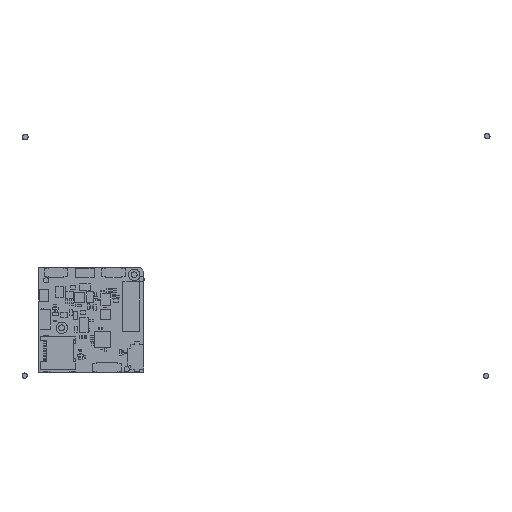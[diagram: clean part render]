
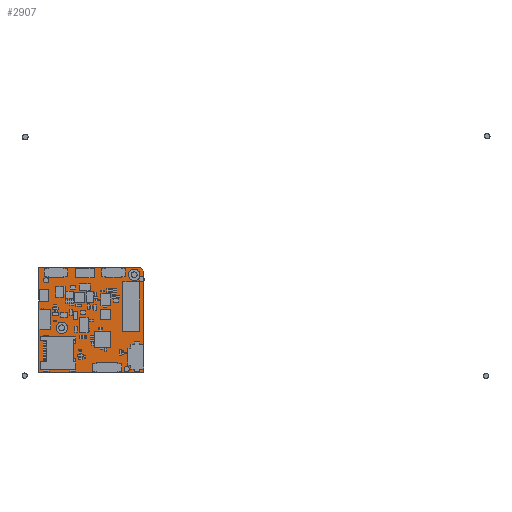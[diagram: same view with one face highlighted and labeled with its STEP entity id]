
A CAD part, top view. The second image highlights one B-rep face of the part: STEP entity #2907.
In plain terms, the highlighted planar face has unit normal (0, 0, 1).
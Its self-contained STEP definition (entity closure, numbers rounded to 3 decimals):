
#1870=FACE_OUTER_BOUND($,#2232,.F.);
#1882=FACE_OUTER_BOUND($,#2244,.T.);
#1886=FACE_OUTER_BOUND($,#2248,.T.);
#1890=FACE_OUTER_BOUND($,#2252,.T.);
#1894=FACE_OUTER_BOUND($,#2256,.T.);
#1898=FACE_OUTER_BOUND($,#2260,.T.);
#1902=FACE_OUTER_BOUND($,#2264,.T.);
#1906=FACE_OUTER_BOUND($,#2268,.T.);
#1912=FACE_OUTER_BOUND($,#2274,.T.);
#1918=FACE_OUTER_BOUND($,#2280,.T.);
#1924=FACE_OUTER_BOUND($,#2286,.T.);
#2232=EDGE_LOOP($,(#5387,#5388,#5389,#5390,#5391,#5392,#5393,#5394,#5395,
#5396));
#2244=EDGE_LOOP($,(#5447,#5448));
#2248=EDGE_LOOP($,(#5459,#5460));
#2252=EDGE_LOOP($,(#5471,#5472));
#2256=EDGE_LOOP($,(#5483,#5484));
#2260=EDGE_LOOP($,(#5495,#5496));
#2264=EDGE_LOOP($,(#5507,#5508));
#2268=EDGE_LOOP($,(#5519,#5520,#5521,#5522));
#2274=EDGE_LOOP($,(#5543,#5544,#5545,#5546));
#2280=EDGE_LOOP($,(#5567,#5568,#5569,#5570));
#2286=EDGE_LOOP($,(#5591,#5592,#5593,#5594));
#2594=PLANE($,#4808);
#2907=ADVANCED_FACE($,(#1870,#1882,#1886,#1890,#1894,#1898,#1902,#1906,
#1912,#1918,#1924),#2594,.T.);
#3249=VECTOR($,#8635,43.429);
#3250=VECTOR($,#8636,2.08);
#3251=VECTOR($,#8637,43.429);
#3252=VECTOR($,#8638,44.9);
#3253=VECTOR($,#8639,44.9);
#3288=VECTOR($,#8679,0.686);
#3289=VECTOR($,#8680,0.686);
#3297=VECTOR($,#8690,0.686);
#3298=VECTOR($,#8691,0.686);
#3306=VECTOR($,#8701,0.127);
#3307=VECTOR($,#8702,0.127);
#3315=VECTOR($,#8712,0.127);
#3316=VECTOR($,#8713,0.127);
#3997=LINE($,#9786,#3249);
#3998=LINE($,#9788,#3250);
#3999=LINE($,#9790,#3251);
#4000=LINE($,#9792,#3252);
#4001=LINE($,#9794,#3253);
#4036=LINE($,#9895,#3288);
#4037=LINE($,#9897,#3289);
#4045=LINE($,#9911,#3297);
#4046=LINE($,#9913,#3298);
#4054=LINE($,#9927,#3306);
#4055=LINE($,#9929,#3307);
#4063=LINE($,#9943,#3315);
#4064=LINE($,#9945,#3316);
#4745=CIRCLE($,#4803,0.05);
#4746=CIRCLE($,#4804,0.05);
#4747=CIRCLE($,#4805,0.05);
#4748=CIRCLE($,#4806,0.05);
#4749=CIRCLE($,#4807,0.05);
#4755=CIRCLE($,#4825,1.245);
#4756=CIRCLE($,#4826,1.245);
#4759=CIRCLE($,#4831,1.245);
#4760=CIRCLE($,#4832,1.245);
#4763=CIRCLE($,#4837,0.127);
#4764=CIRCLE($,#4838,0.127);
#4767=CIRCLE($,#4843,0.508);
#4768=CIRCLE($,#4844,0.508);
#4771=CIRCLE($,#4849,0.508);
#4772=CIRCLE($,#4850,0.508);
#4775=CIRCLE($,#4855,0.127);
#4776=CIRCLE($,#4856,0.127);
#4779=CIRCLE($,#4861,0.305);
#4780=CIRCLE($,#4862,0.305);
#4783=CIRCLE($,#4869,0.305);
#4784=CIRCLE($,#4870,0.305);
#4787=CIRCLE($,#4877,0.356);
#4788=CIRCLE($,#4878,0.356);
#4791=CIRCLE($,#4885,0.356);
#4792=CIRCLE($,#4886,0.356);
#4803=AXIS2_PLACEMENT_3D($,#9796,#8632,$);
#4804=AXIS2_PLACEMENT_3D($,#9797,#8632,$);
#4805=AXIS2_PLACEMENT_3D($,#9798,#8632,$);
#4806=AXIS2_PLACEMENT_3D($,#9799,#8632,$);
#4807=AXIS2_PLACEMENT_3D($,#9800,#8632,$);
#4808=AXIS2_PLACEMENT_3D($,#9786,#8632,$);
#4825=AXIS2_PLACEMENT_3D($,#9825,#8632,$);
#4826=AXIS2_PLACEMENT_3D($,#9826,#8632,$);
#4831=AXIS2_PLACEMENT_3D($,#9837,#8632,$);
#4832=AXIS2_PLACEMENT_3D($,#9838,#8632,$);
#4837=AXIS2_PLACEMENT_3D($,#9849,#8632,$);
#4838=AXIS2_PLACEMENT_3D($,#9850,#8632,$);
#4843=AXIS2_PLACEMENT_3D($,#9861,#8632,$);
#4844=AXIS2_PLACEMENT_3D($,#9862,#8632,$);
#4849=AXIS2_PLACEMENT_3D($,#9873,#8632,$);
#4850=AXIS2_PLACEMENT_3D($,#9874,#8632,$);
#4855=AXIS2_PLACEMENT_3D($,#9885,#8632,$);
#4856=AXIS2_PLACEMENT_3D($,#9886,#8632,$);
#4861=AXIS2_PLACEMENT_3D($,#9899,#8632,$);
#4862=AXIS2_PLACEMENT_3D($,#9900,#8632,$);
#4869=AXIS2_PLACEMENT_3D($,#9915,#8632,$);
#4870=AXIS2_PLACEMENT_3D($,#9916,#8632,$);
#4877=AXIS2_PLACEMENT_3D($,#9931,#8632,$);
#4878=AXIS2_PLACEMENT_3D($,#9932,#8632,$);
#4885=AXIS2_PLACEMENT_3D($,#9947,#8632,$);
#4886=AXIS2_PLACEMENT_3D($,#9948,#8632,$);
#5387=ORIENTED_EDGE($,*,*,#6887,.T.);
#5388=ORIENTED_EDGE($,*,*,#6888,.T.);
#5389=ORIENTED_EDGE($,*,*,#6889,.T.);
#5390=ORIENTED_EDGE($,*,*,#6890,.T.);
#5391=ORIENTED_EDGE($,*,*,#6891,.T.);
#5392=ORIENTED_EDGE($,*,*,#6892,.T.);
#5393=ORIENTED_EDGE($,*,*,#6893,.T.);
#5394=ORIENTED_EDGE($,*,*,#6894,.T.);
#5395=ORIENTED_EDGE($,*,*,#6895,.T.);
#5396=ORIENTED_EDGE($,*,*,#6896,.T.);
#5447=ORIENTED_EDGE($,*,*,#6918,.T.);
#5448=ORIENTED_EDGE($,*,*,#6919,.T.);
#5459=ORIENTED_EDGE($,*,*,#6925,.T.);
#5460=ORIENTED_EDGE($,*,*,#6926,.T.);
#5471=ORIENTED_EDGE($,*,*,#6932,.T.);
#5472=ORIENTED_EDGE($,*,*,#6933,.T.);
#5483=ORIENTED_EDGE($,*,*,#6939,.T.);
#5484=ORIENTED_EDGE($,*,*,#6940,.T.);
#5495=ORIENTED_EDGE($,*,*,#6946,.T.);
#5496=ORIENTED_EDGE($,*,*,#6947,.T.);
#5507=ORIENTED_EDGE($,*,*,#6953,.T.);
#5508=ORIENTED_EDGE($,*,*,#6954,.T.);
#5519=ORIENTED_EDGE($,*,*,#6960,.T.);
#5520=ORIENTED_EDGE($,*,*,#6961,.T.);
#5521=ORIENTED_EDGE($,*,*,#6962,.T.);
#5522=ORIENTED_EDGE($,*,*,#6963,.T.);
#5543=ORIENTED_EDGE($,*,*,#6973,.T.);
#5544=ORIENTED_EDGE($,*,*,#6974,.T.);
#5545=ORIENTED_EDGE($,*,*,#6975,.T.);
#5546=ORIENTED_EDGE($,*,*,#6976,.T.);
#5567=ORIENTED_EDGE($,*,*,#6986,.T.);
#5568=ORIENTED_EDGE($,*,*,#6987,.T.);
#5569=ORIENTED_EDGE($,*,*,#6988,.T.);
#5570=ORIENTED_EDGE($,*,*,#6989,.T.);
#5591=ORIENTED_EDGE($,*,*,#6999,.T.);
#5592=ORIENTED_EDGE($,*,*,#7000,.T.);
#5593=ORIENTED_EDGE($,*,*,#7001,.T.);
#5594=ORIENTED_EDGE($,*,*,#7002,.T.);
#6887=EDGE_CURVE($,#7693,#7694,#4745,.F.);
#6888=EDGE_CURVE($,#7694,#7695,#3997,.T.);
#6889=EDGE_CURVE($,#7695,#7696,#4746,.F.);
#6890=EDGE_CURVE($,#7696,#7697,#3998,.T.);
#6891=EDGE_CURVE($,#7697,#7698,#4747,.F.);
#6892=EDGE_CURVE($,#7698,#7699,#3999,.T.);
#6893=EDGE_CURVE($,#7699,#7700,#4748,.F.);
#6894=EDGE_CURVE($,#7700,#7701,#4000,.T.);
#6895=EDGE_CURVE($,#7701,#7702,#4749,.F.);
#6896=EDGE_CURVE($,#7702,#7693,#4001,.T.);
#6918=EDGE_CURVE($,#7715,#7716,#4755,.F.);
#6919=EDGE_CURVE($,#7716,#7715,#4756,.F.);
#6925=EDGE_CURVE($,#7721,#7722,#4759,.F.);
#6926=EDGE_CURVE($,#7722,#7721,#4760,.F.);
#6932=EDGE_CURVE($,#7727,#7728,#4763,.F.);
#6933=EDGE_CURVE($,#7728,#7727,#4764,.F.);
#6939=EDGE_CURVE($,#7733,#7734,#4767,.F.);
#6940=EDGE_CURVE($,#7734,#7733,#4768,.F.);
#6946=EDGE_CURVE($,#7739,#7740,#4771,.F.);
#6947=EDGE_CURVE($,#7740,#7739,#4772,.F.);
#6953=EDGE_CURVE($,#7745,#7746,#4775,.F.);
#6954=EDGE_CURVE($,#7746,#7745,#4776,.F.);
#6960=EDGE_CURVE($,#7751,#7752,#4779,.F.);
#6961=EDGE_CURVE($,#7752,#7753,#4036,.T.);
#6962=EDGE_CURVE($,#7753,#7754,#4780,.F.);
#6963=EDGE_CURVE($,#7754,#7751,#4037,.T.);
#6973=EDGE_CURVE($,#7761,#7762,#4783,.F.);
#6974=EDGE_CURVE($,#7762,#7763,#4045,.T.);
#6975=EDGE_CURVE($,#7763,#7764,#4784,.F.);
#6976=EDGE_CURVE($,#7764,#7761,#4046,.T.);
#6986=EDGE_CURVE($,#7771,#7772,#4787,.F.);
#6987=EDGE_CURVE($,#7772,#7773,#4054,.T.);
#6988=EDGE_CURVE($,#7773,#7774,#4788,.F.);
#6989=EDGE_CURVE($,#7774,#7771,#4055,.T.);
#6999=EDGE_CURVE($,#7781,#7782,#4791,.F.);
#7000=EDGE_CURVE($,#7782,#7783,#4063,.T.);
#7001=EDGE_CURVE($,#7783,#7784,#4792,.F.);
#7002=EDGE_CURVE($,#7784,#7781,#4064,.T.);
#7693=VERTEX_POINT($,#9785);
#7694=VERTEX_POINT($,#9786);
#7695=VERTEX_POINT($,#9787);
#7696=VERTEX_POINT($,#9788);
#7697=VERTEX_POINT($,#9789);
#7698=VERTEX_POINT($,#9790);
#7699=VERTEX_POINT($,#9791);
#7700=VERTEX_POINT($,#9792);
#7701=VERTEX_POINT($,#9793);
#7702=VERTEX_POINT($,#9794);
#7715=VERTEX_POINT($,#9822);
#7716=VERTEX_POINT($,#9823);
#7721=VERTEX_POINT($,#9834);
#7722=VERTEX_POINT($,#9835);
#7727=VERTEX_POINT($,#9846);
#7728=VERTEX_POINT($,#9847);
#7733=VERTEX_POINT($,#9858);
#7734=VERTEX_POINT($,#9859);
#7739=VERTEX_POINT($,#9870);
#7740=VERTEX_POINT($,#9871);
#7745=VERTEX_POINT($,#9882);
#7746=VERTEX_POINT($,#9883);
#7751=VERTEX_POINT($,#9894);
#7752=VERTEX_POINT($,#9895);
#7753=VERTEX_POINT($,#9896);
#7754=VERTEX_POINT($,#9897);
#7761=VERTEX_POINT($,#9910);
#7762=VERTEX_POINT($,#9911);
#7763=VERTEX_POINT($,#9912);
#7764=VERTEX_POINT($,#9913);
#7771=VERTEX_POINT($,#9926);
#7772=VERTEX_POINT($,#9927);
#7773=VERTEX_POINT($,#9928);
#7774=VERTEX_POINT($,#9929);
#7781=VERTEX_POINT($,#9942);
#7782=VERTEX_POINT($,#9943);
#7783=VERTEX_POINT($,#9944);
#7784=VERTEX_POINT($,#9945);
#8632=DIRECTION($,(0.,0.,1.));
#8635=DIRECTION($,(1.,0.,0.));
#8636=DIRECTION($,(0.707,-0.707,0.));
#8637=DIRECTION($,(0.,-1.,0.));
#8638=DIRECTION($,(-1.,0.,0.));
#8639=DIRECTION($,(0.,1.,0.));
#8679=DIRECTION($,(-1.,0.,0.));
#8680=DIRECTION($,(1.,0.,0.));
#8690=DIRECTION($,(-1.,0.,0.));
#8691=DIRECTION($,(1.,0.,0.));
#8701=DIRECTION($,(-1.,0.,0.));
#8702=DIRECTION($,(1.,0.,0.));
#8712=DIRECTION($,(-1.,0.,0.));
#8713=DIRECTION($,(1.,0.,0.));
#9785=CARTESIAN_POINT('',(12.,56.95,0.));
#9786=CARTESIAN_POINT('',(12.05,57.,0.));
#9787=CARTESIAN_POINT('',(55.479,57.,0.));
#9788=CARTESIAN_POINT('',(55.514,56.985,0.));
#9789=CARTESIAN_POINT('',(56.985,55.514,0.));
#9790=CARTESIAN_POINT('',(57.,55.479,0.));
#9791=CARTESIAN_POINT('',(57.,12.05,0.));
#9792=CARTESIAN_POINT('',(56.95,12.,0.));
#9793=CARTESIAN_POINT('',(12.05,12.,0.));
#9794=CARTESIAN_POINT('',(12.,12.05,0.));
#9796=CARTESIAN_POINT('',(12.05,56.95,0.));
#9797=CARTESIAN_POINT('',(55.479,56.95,0.));
#9798=CARTESIAN_POINT('',(56.95,55.479,0.));
#9799=CARTESIAN_POINT('',(56.95,12.05,0.));
#9800=CARTESIAN_POINT('',(12.05,12.05,0.));
#9822=CARTESIAN_POINT('',(54.081,53.954,0.));
#9823=CARTESIAN_POINT('',(51.591,53.954,0.));
#9825=CARTESIAN_POINT('',(52.836,53.954,0.));
#9826=CARTESIAN_POINT('',(52.836,53.954,0.));
#9834=CARTESIAN_POINT('',(23.014,31.194,0.));
#9835=CARTESIAN_POINT('',(20.525,31.194,0.));
#9837=CARTESIAN_POINT('',(21.77,31.194,0.));
#9838=CARTESIAN_POINT('',(21.77,31.194,0.));
#9846=CARTESIAN_POINT('',(40.767,43.307,0.));
#9847=CARTESIAN_POINT('',(40.513,43.307,0.));
#9849=CARTESIAN_POINT('',(40.64,43.307,0.));
#9850=CARTESIAN_POINT('',(40.64,43.307,0.));
#9858=CARTESIAN_POINT('',(49.241,30.24,0.));
#9859=CARTESIAN_POINT('',(48.225,30.24,0.));
#9861=CARTESIAN_POINT('',(48.733,30.24,0.));
#9862=CARTESIAN_POINT('',(48.733,30.24,0.));
#9870=CARTESIAN_POINT('',(49.241,50.357,0.));
#9871=CARTESIAN_POINT('',(48.225,50.357,0.));
#9873=CARTESIAN_POINT('',(48.733,50.357,0.));
#9874=CARTESIAN_POINT('',(48.733,50.357,0.));
#9882=CARTESIAN_POINT('',(25.248,45.356,0.));
#9883=CARTESIAN_POINT('',(24.994,45.356,0.));
#9885=CARTESIAN_POINT('',(25.121,45.356,0.));
#9886=CARTESIAN_POINT('',(25.121,45.356,0.));
#9894=CARTESIAN_POINT('',(13.805,39.281,0.));
#9895=CARTESIAN_POINT('',(13.805,38.672,0.));
#9896=CARTESIAN_POINT('',(13.119,38.672,0.));
#9897=CARTESIAN_POINT('',(13.119,39.281,0.));
#9899=CARTESIAN_POINT('',(13.805,38.976,0.));
#9900=CARTESIAN_POINT('',(13.119,38.976,0.));
#9910=CARTESIAN_POINT('',(13.805,30.925,0.));
#9911=CARTESIAN_POINT('',(13.805,30.315,0.));
#9912=CARTESIAN_POINT('',(13.119,30.315,0.));
#9913=CARTESIAN_POINT('',(13.119,30.925,0.));
#9915=CARTESIAN_POINT('',(13.805,30.62,0.));
#9916=CARTESIAN_POINT('',(13.119,30.62,0.));
#9926=CARTESIAN_POINT('',(16.529,37.389,0.));
#9927=CARTESIAN_POINT('',(16.529,36.678,0.));
#9928=CARTESIAN_POINT('',(16.402,36.678,0.));
#9929=CARTESIAN_POINT('',(16.402,37.389,0.));
#9931=CARTESIAN_POINT('',(16.529,37.033,0.));
#9932=CARTESIAN_POINT('',(16.402,37.033,0.));
#9942=CARTESIAN_POINT('',(16.529,32.918,0.));
#9943=CARTESIAN_POINT('',(16.529,32.207,0.));
#9944=CARTESIAN_POINT('',(16.402,32.207,0.));
#9945=CARTESIAN_POINT('',(16.402,32.918,0.));
#9947=CARTESIAN_POINT('',(16.529,32.563,0.));
#9948=CARTESIAN_POINT('',(16.402,32.563,0.));
